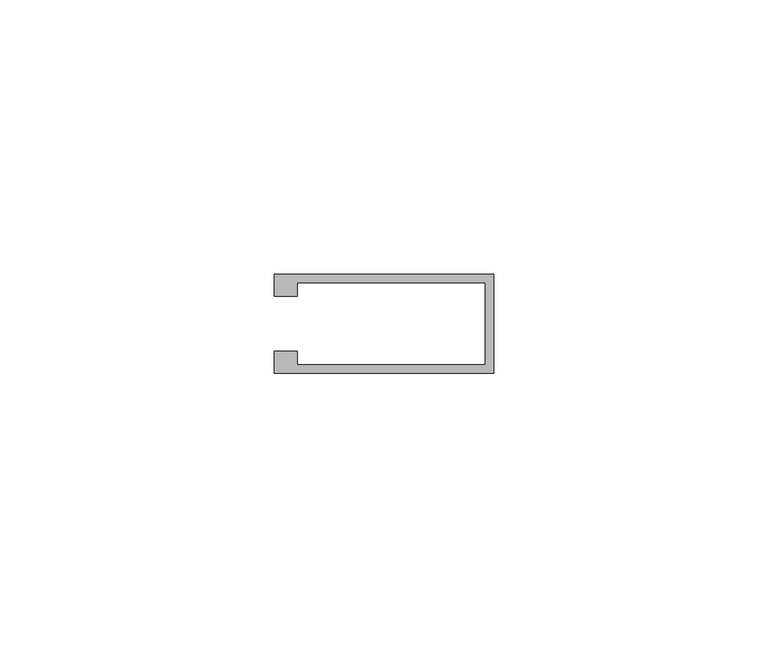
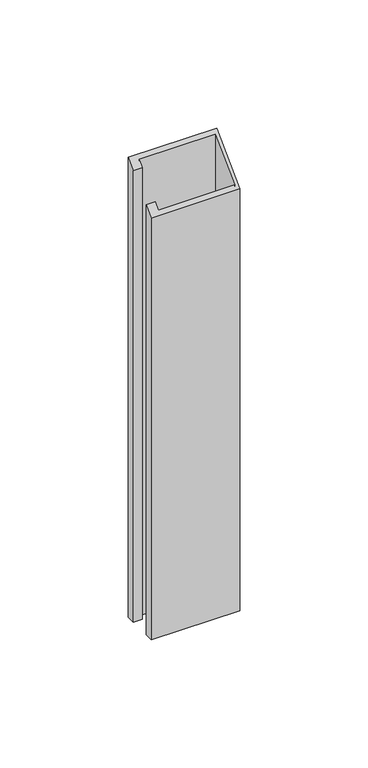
"""IFC4 building model written with IfcOpenShell, lengths in millimetres: member geometry, Прямоугольный импост : 11-AMG-1-Профиль 40Х18 Низ Л."""

from ifc_helpers import new_model, si_unit, origin, place, context, project, spatial, faceted_brep, source, transform, mapped, element, save


def member_80aaf84b(model_context):
    return source(origin(), model_context, "Body", "Brep", [
        faceted_brep([(-40.0, 5.0, -210.0), (-40.0, 9.0, -210.0), (0.0, 9.0, -210.0), (0.0, -9.0, -210.0), (-40.0, -9.0, -210.0), (-40.0, -5.0, -210.0), (-35.8552307, -5.0, -210.0), (-35.8552307, -7.5, -210.0), (-1.5, -7.5, -210.0), (-1.5, 7.5, -210.0), (-35.8552307, 7.5, -210.0), (-35.8552307, 5.0, -210.0), (-35.8552307, 5.0, 5.0), (-40.0, 5.0, 5.0), (-35.8552307, 7.5, 7.5), (-1.5, 7.5, 7.5), (-1.5, -7.5, -7.5), (-35.8552307, -7.5, -7.5), (-35.8552307, -5.0, -5.0), (-40.0, -5.0, -5.0), (-40.0, -9.0, -9.0), (0.0, -9.0, -9.0), (0.0, 9.0, 9.0), (-40.0, 9.0, 9.0)], [[[0, 1, 2, 3, 4, 5, 6, 7, 8, 9, 10, 11]], [[12, 13, 0, 11]], [[14, 12, 11, 10]], [[15, 14, 10, 9]], [[16, 15, 9, 8]], [[17, 16, 8, 7]], [[18, 17, 7, 6]], [[19, 18, 6, 5]], [[20, 19, 5, 4]], [[21, 20, 4, 3]], [[22, 21, 3, 2]], [[23, 22, 2, 1]], [[13, 23, 1, 0]], [[13, 12, 14, 15, 16, 17, 18, 19, 20, 21, 22, 23]]]),
    ])


if __name__ == "__main__":
    model = new_model("IFC4")
    model_context = context("Model", 3, world=origin())
    ifc_project = project(units=[si_unit("LENGTHUNIT", "METRE", prefix="MILLI")], contexts=[model_context])
    site = spatial("IfcSite", under=ifc_project)
    building = spatial("IfcBuilding", under=site)
    placement = place(None, origin())
    member_shape = member_80aaf84b(model_context)
    element("IfcMember", 1, ObjectType="Прямоугольный импост : 11-AMG-1-Профиль 40Х18 Низ Л", at=placement, inside=building, context=model_context, shape_type="MappedRepresentation", body=[
        mapped(member_shape, transform((0.0, 0.0, 0.0), x_axis=(1.0, 0.0, 0.0), y_axis=(0.0, 1.0, 0.0), z_axis=(0.0, 0.0, 1.0))),
    ])
    save(model, "model.ifc")
